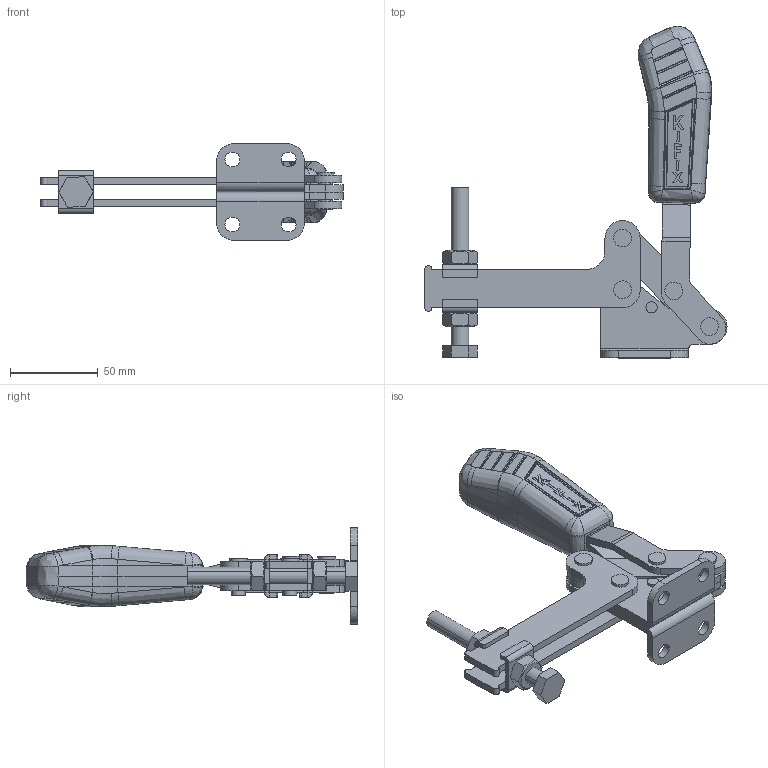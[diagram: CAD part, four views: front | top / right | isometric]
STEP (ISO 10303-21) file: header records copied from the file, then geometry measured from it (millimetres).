
FILE_DESCRIPTION (( 'STEP AP203' ), '1' );
FILE_NAME ('KF-631 DL.STEP', '2018-11-29T17:59:16', ( 'Ricardo' ), ( '' ), 'SwSTEP 2.0', 'SolidWorks 2018', '' );
FILE_SCHEMA (( 'CONFIG_CONTROL_DESIGN' ));
Length unit declared in the file: millimetre
Products named in the file (13): 01.10016_Direita; 02.12035_Esquerda; 01.10016_Esquerda; 03.13050; 3670000086; 08.10008; KF-631 DL; 07.60002; 14.10003; 12.50021; 11.50003; 3670000087; 02.12035_Direita
Assembly tree (19 placements, depth 2):
  KF-631 DL
    02.12035_Direita
    02.12035_Esquerda
    03.13050  x2
    08.10008  x2
    07.60002
    14.10003  x2
    12.50021
    11.50003  x2
    3670000087
    01.10016_Direita
    01.10016_Esquerda
    3670000086  x4
Bounding box: 172 x 188.93 x 55 mm (x, y, z)
Volume: 185168.3 mm3; surface area: 79080.2 mm2
Topology: 19 solids, 19 shells, 713 faces, 1770 edges, 1109 vertices
Faces by surface type: plane 281, cylinder 198, bspline 159, sphere 52, cone 20, torus 3
Entity records: 24061 total; most frequent: CARTESIAN_POINT 9004, ORIENTED_EDGE 3072, DIRECTION 2419, EDGE_CURVE 1536, VERTEX_POINT 965, AXIS2_PLACEMENT_3D 913, EDGE_LOOP 685, ADVANCED_FACE 618
